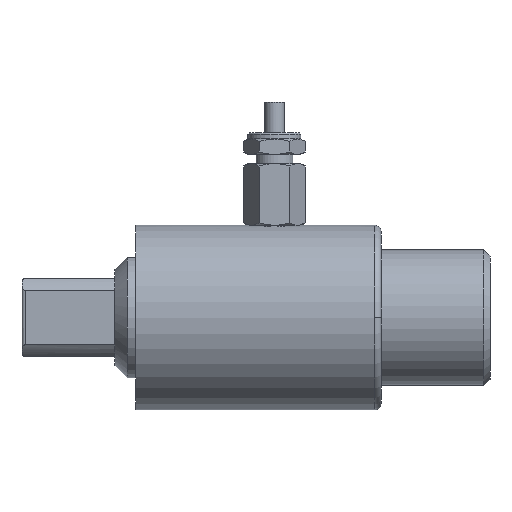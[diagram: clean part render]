
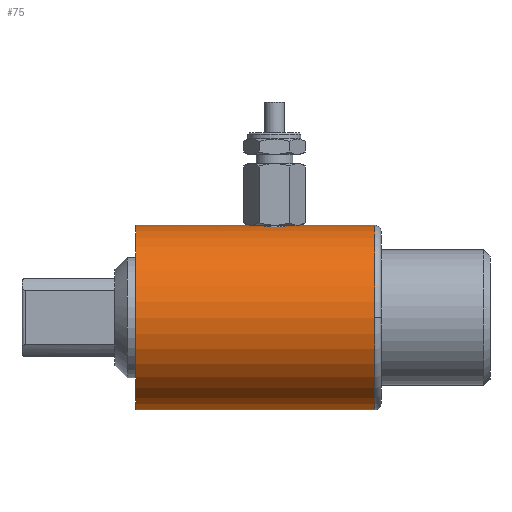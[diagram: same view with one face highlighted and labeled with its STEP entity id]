
A CAD part, front view. The second image highlights one B-rep face of the part: STEP entity #75.
In plain terms, the highlighted cylindrical face has radius 15 mm (diameter 30 mm), a partial arc.
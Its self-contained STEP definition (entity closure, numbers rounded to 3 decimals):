
#75=ADVANCED_FACE('',(#173),#174,.T.);
#173=FACE_OUTER_BOUND('',#373,.T.);
#174=CYLINDRICAL_SURFACE('',#374,15.0);
#373=EDGE_LOOP('',(#573,#574,#575,#576,#577,#578,#579,#580,#581));
#374=AXIS2_PLACEMENT_3D('',#582,#583,#584);
#573=ORIENTED_EDGE('',*,*,#1292,.F.);
#574=ORIENTED_EDGE('',*,*,#1293,.T.);
#575=ORIENTED_EDGE('',*,*,#1294,.T.);
#576=ORIENTED_EDGE('',*,*,#1295,.F.);
#577=ORIENTED_EDGE('',*,*,#1296,.T.);
#578=ORIENTED_EDGE('',*,*,#1297,.T.);
#579=ORIENTED_EDGE('',*,*,#1298,.T.);
#580=ORIENTED_EDGE('',*,*,#1299,.F.);
#581=ORIENTED_EDGE('',*,*,#1300,.F.);
#582=CARTESIAN_POINT('',(37.9,0.,0.));
#583=DIRECTION('',(1.0,0.,0.));
#584=DIRECTION('',(0.,0.0,-1.0));
#1292=EDGE_CURVE('',#1504,#1505,#1506,.T.);
#1293=EDGE_CURVE('',#1504,#1507,#1508,.T.);
#1294=EDGE_CURVE('',#1507,#1509,#1510,.T.);
#1295=EDGE_CURVE('',#1511,#1509,#1512,.T.);
#1296=EDGE_CURVE('',#1511,#1513,#1514,.T.);
#1297=EDGE_CURVE('',#1513,#1515,#1516,.T.);
#1298=EDGE_CURVE('',#1515,#1517,#1518,.T.);
#1299=EDGE_CURVE('',#1519,#1517,#1520,.T.);
#1300=EDGE_CURVE('',#1505,#1519,#1521,.T.);
#1504=VERTEX_POINT('',#1839);
#1505=VERTEX_POINT('',#1840);
#1506=LINE('',#1841,#1842);
#1507=VERTEX_POINT('',#1843);
#1508=CIRCLE('',#1844,15.0);
#1509=VERTEX_POINT('',#1845);
#1510=CIRCLE('',#1846,15.0);
#1511=VERTEX_POINT('',#1847);
#1512=LINE('',#1848,#1849);
#1513=VERTEX_POINT('',#1850);
#1514=LINE('',#1851,#1852);
#1515=VERTEX_POINT('',#1853);
#1516=B_SPLINE_CURVE_WITH_KNOTS('',3,(#1854,#1855,#1856,#1857,#1858,#1859,#1860,#1861,#1862,#1863,#1864,#1865,#1866,#1867,#1868,#1869,#1870,#1871,#1872,#1873,#1874,#1875,#1876,#1877,#1878,#1879,#1880,#1881,#1882,#1883,#1884,#1885,#1886,#1887,#1888),.UNSPECIFIED.,.F.,.F.,(4,2,2,2,2,2,2,2,3,2,2,2,2,2,2,2,4),(13.6,14.167,14.734,15.3,15.867,16.434,17.,17.567,18.134,18.7,19.267,19.834,20.4,20.967,21.534,22.1,22.667),.UNSPECIFIED.);
#1517=VERTEX_POINT('',#1889);
#1518=LINE('',#1890,#1891);
#1519=VERTEX_POINT('',#1892);
#1520=LINE('',#1893,#1894);
#1521=CIRCLE('',#1895,15.0);
#1839=CARTESIAN_POINT('',(57.3,0.,-15.0));
#1840=CARTESIAN_POINT('',(18.5,0.,-15.0));
#1841=CARTESIAN_POINT('',(37.9,0.,-15.0));
#1842=VECTOR('',#2966,1.0);
#1843=CARTESIAN_POINT('',(57.3,-15.0,0.));
#1844=AXIS2_PLACEMENT_3D('',#2967,#2968,#2969);
#1845=CARTESIAN_POINT('',(57.3,0.,15.0));
#1846=AXIS2_PLACEMENT_3D('',#2970,#2971,#2972);
#1847=CARTESIAN_POINT('',(45.3,0.,15.0));
#1848=CARTESIAN_POINT('',(37.9,0.,15.0));
#1849=VECTOR('',#2973,1.0);
#1850=CARTESIAN_POINT('',(44.0,0.0,15.0));
#1851=CARTESIAN_POINT('',(41.0,0.,15.0));
#1852=VECTOR('',#2974,1.0);
#1853=CARTESIAN_POINT('',(38.0,0.,15.0));
#1854=CARTESIAN_POINT('',(44.0,0.0,15.0));
#1855=CARTESIAN_POINT('',(44.0,-0.189,15.0));
#1856=CARTESIAN_POINT('',(43.982,-0.384,14.996));
#1857=CARTESIAN_POINT('',(43.906,-0.772,14.981));
#1858=CARTESIAN_POINT('',(43.848,-0.965,14.97));
#1859=CARTESIAN_POINT('',(43.694,-1.334,14.942));
#1860=CARTESIAN_POINT('',(43.599,-1.511,14.925));
#1861=CARTESIAN_POINT('',(43.379,-1.838,14.888));
#1862=CARTESIAN_POINT('',(43.254,-1.988,14.868));
#1863=CARTESIAN_POINT('',(42.988,-2.254,14.83));
#1864=CARTESIAN_POINT('',(42.838,-2.379,14.811));
#1865=CARTESIAN_POINT('',(42.511,-2.599,14.774));
#1866=CARTESIAN_POINT('',(42.334,-2.694,14.756));
#1867=CARTESIAN_POINT('',(41.965,-2.848,14.727));
#1868=CARTESIAN_POINT('',(41.772,-2.906,14.716));
#1869=CARTESIAN_POINT('',(41.384,-2.982,14.701));
#1870=CARTESIAN_POINT('',(41.189,-3.0,14.697));
#1871=CARTESIAN_POINT('',(41.0,-3.0,14.697));
#1872=CARTESIAN_POINT('',(40.811,-3.0,14.697));
#1873=CARTESIAN_POINT('',(40.616,-2.982,14.701));
#1874=CARTESIAN_POINT('',(40.228,-2.906,14.716));
#1875=CARTESIAN_POINT('',(40.035,-2.848,14.727));
#1876=CARTESIAN_POINT('',(39.666,-2.694,14.756));
#1877=CARTESIAN_POINT('',(39.489,-2.599,14.774));
#1878=CARTESIAN_POINT('',(39.162,-2.379,14.811));
#1879=CARTESIAN_POINT('',(39.012,-2.254,14.83));
#1880=CARTESIAN_POINT('',(38.746,-1.988,14.868));
#1881=CARTESIAN_POINT('',(38.621,-1.838,14.888));
#1882=CARTESIAN_POINT('',(38.401,-1.511,14.925));
#1883=CARTESIAN_POINT('',(38.306,-1.334,14.942));
#1884=CARTESIAN_POINT('',(38.152,-0.965,14.97));
#1885=CARTESIAN_POINT('',(38.094,-0.772,14.981));
#1886=CARTESIAN_POINT('',(38.018,-0.384,14.996));
#1887=CARTESIAN_POINT('',(38.0,-0.189,15.0));
#1888=CARTESIAN_POINT('',(38.0,0.,15.0));
#1889=CARTESIAN_POINT('',(36.7,0.,15.0));
#1890=CARTESIAN_POINT('',(41.0,0.,15.0));
#1891=VECTOR('',#2975,1.0);
#1892=CARTESIAN_POINT('',(18.5,0.,15.0));
#1893=CARTESIAN_POINT('',(37.9,0.,15.0));
#1894=VECTOR('',#2976,1.0);
#1895=AXIS2_PLACEMENT_3D('',#2977,#2978,#2979);
#2966=DIRECTION('',(-1.0,0.,0.));
#2967=CARTESIAN_POINT('',(57.3,0.,0.));
#2968=DIRECTION('',(-1.0,0.,0.));
#2969=DIRECTION('',(0.,0.0,-1.0));
#2970=CARTESIAN_POINT('',(57.3,0.,0.));
#2971=DIRECTION('',(-1.0,0.,0.));
#2972=DIRECTION('',(0.,0.0,-1.0));
#2973=DIRECTION('',(1.0,0.,0.));
#2974=DIRECTION('',(-1.0,0.,0.));
#2975=DIRECTION('',(-1.0,0.,0.));
#2976=DIRECTION('',(1.0,0.,0.));
#2977=CARTESIAN_POINT('',(18.5,0.,0.));
#2978=DIRECTION('',(-1.0,0.,0.));
#2979=DIRECTION('',(0.,0.0,-1.0));
